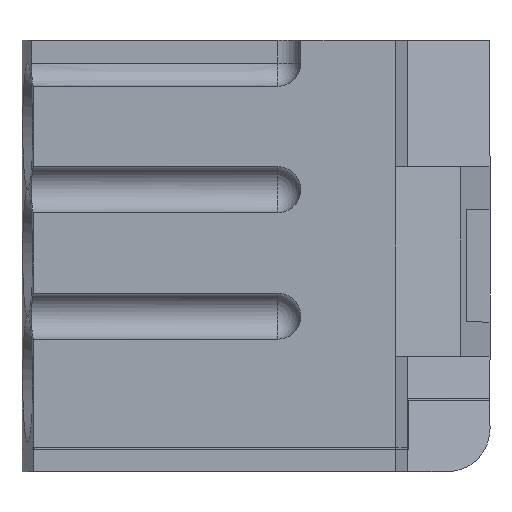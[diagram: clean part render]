
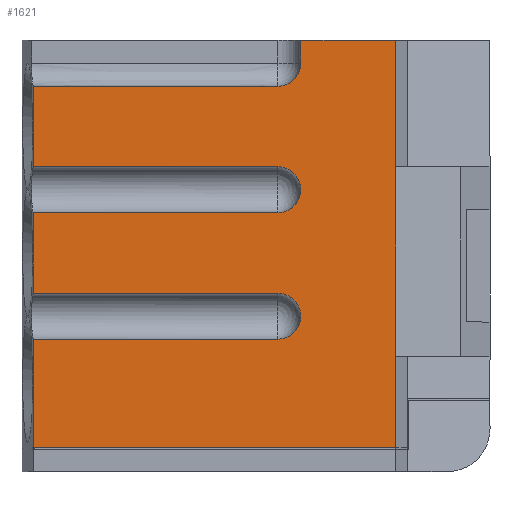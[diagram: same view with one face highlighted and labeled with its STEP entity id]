
A CAD part, top view. The second image highlights one B-rep face of the part: STEP entity #1621.
In plain terms, the highlighted planar face has unit normal (0, 0, 1).
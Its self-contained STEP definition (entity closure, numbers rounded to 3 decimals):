
#23=B_SPLINE_CURVE_WITH_KNOTS('',3,(#2392,#2393,#2394,#2395),
 .UNSPECIFIED.,.F.,.F.,(4,4),(0.,0.009),.UNSPECIFIED.);
#64=PLANE('',#1735);
#73=CIRCLE('',#1634,0.8);
#86=CIRCLE('',#1709,0.8);
#90=CIRCLE('',#1714,0.8);
#384=ORIENTED_EDGE('',*,*,#421,.F.);
#385=ORIENTED_EDGE('',*,*,#425,.F.);
#386=ORIENTED_EDGE('',*,*,#423,.F.);
#387=ORIENTED_EDGE('',*,*,#570,.T.);
#388=ORIENTED_EDGE('',*,*,#567,.F.);
#389=ORIENTED_EDGE('',*,*,#538,.T.);
#390=ORIENTED_EDGE('',*,*,#569,.F.);
#391=ORIENTED_EDGE('',*,*,#571,.T.);
#392=ORIENTED_EDGE('',*,*,#550,.F.);
#393=ORIENTED_EDGE('',*,*,#549,.T.);
#394=ORIENTED_EDGE('',*,*,#548,.T.);
#395=ORIENTED_EDGE('',*,*,#547,.T.);
#396=ORIENTED_EDGE('',*,*,#562,.F.);
#397=ORIENTED_EDGE('',*,*,#545,.F.);
#398=ORIENTED_EDGE('',*,*,#542,.T.);
#399=ORIENTED_EDGE('',*,*,#566,.F.);
#400=ORIENTED_EDGE('',*,*,#572,.T.);
#421=EDGE_CURVE('',#575,#576,#668,.T.);
#423=EDGE_CURVE('',#577,#578,#669,.F.);
#425=EDGE_CURVE('',#578,#575,#73,.F.);
#538=EDGE_CURVE('',#650,#651,#86,.T.);
#542=EDGE_CURVE('',#652,#654,#90,.T.);
#545=EDGE_CURVE('',#652,#656,#758,.T.);
#547=EDGE_CURVE('',#629,#657,#760,.T.);
#548=EDGE_CURVE('',#630,#629,#761,.T.);
#549=EDGE_CURVE('',#635,#630,#762,.T.);
#550=EDGE_CURVE('',#635,#658,#763,.F.);
#562=EDGE_CURVE('',#656,#657,#770,.T.);
#566=EDGE_CURVE('',#665,#654,#23,.T.);
#567=EDGE_CURVE('',#650,#666,#772,.T.);
#569=EDGE_CURVE('',#667,#651,#773,.F.);
#570=EDGE_CURVE('',#577,#666,#774,.T.);
#571=EDGE_CURVE('',#667,#658,#775,.T.);
#572=EDGE_CURVE('',#665,#576,#776,.T.);
#575=VERTEX_POINT('',#2075);
#576=VERTEX_POINT('',#2076);
#577=VERTEX_POINT('',#2078);
#578=VERTEX_POINT('',#2080);
#629=VERTEX_POINT('',#2238);
#630=VERTEX_POINT('',#2242);
#635=VERTEX_POINT('',#2261);
#650=VERTEX_POINT('',#2317);
#651=VERTEX_POINT('',#2318);
#652=VERTEX_POINT('',#2322);
#654=VERTEX_POINT('',#2325);
#656=VERTEX_POINT('',#2330);
#657=VERTEX_POINT('',#2335);
#658=VERTEX_POINT('',#2343);
#665=VERTEX_POINT('',#2391);
#666=VERTEX_POINT('',#2398);
#667=VERTEX_POINT('',#2400);
#668=LINE('',#2074,#778);
#669=LINE('',#2079,#779);
#758=LINE('',#2332,#868);
#760=LINE('',#2336,#870);
#761=LINE('',#2338,#871);
#762=LINE('',#2340,#872);
#763=LINE('',#2342,#873);
#770=LINE('',#2366,#880);
#772=LINE('',#2397,#882);
#773=LINE('',#2401,#883);
#774=LINE('',#2403,#884);
#775=LINE('',#2404,#885);
#776=LINE('',#2405,#886);
#778=VECTOR('',#1744,1000.);
#779=VECTOR('',#1747,1000.);
#868=VECTOR('',#2006,1000.);
#870=VECTOR('',#2010,1000.);
#871=VECTOR('',#2013,1000.);
#872=VECTOR('',#2016,1000.);
#873=VECTOR('',#2019,1000.);
#880=VECTOR('',#2048,1000.);
#882=VECTOR('',#2054,1000.);
#883=VECTOR('',#2057,1000.);
#884=VECTOR('',#2060,1000.);
#885=VECTOR('',#2061,1000.);
#886=VECTOR('',#2062,1000.);
#959=EDGE_LOOP('',(#384,#385,#386,#387,#388,#389,#390,#391,#392,#393,#394,
#395,#396,#397,#398,#399,#400));
#1036=FACE_BOUND('',#959,.T.);
#1621=ADVANCED_FACE('',(#1036),#64,.F.);
#1634=AXIS2_PLACEMENT_3D('',#2083,#1752,#1753);
#1709=AXIS2_PLACEMENT_3D('',#2316,#1989,#1990);
#1714=AXIS2_PLACEMENT_3D('',#2326,#1999,#2000);
#1735=AXIS2_PLACEMENT_3D('',#2402,#2058,#2059);
#1744=DIRECTION('',(-1.,0.,0.));
#1747=DIRECTION('',(-1.,0.,0.));
#1752=DIRECTION('',(0.,0.,-1.));
#1753=DIRECTION('',(-1.,0.,0.));
#1989=DIRECTION('',(0.,0.,-1.));
#1990=DIRECTION('',(-1.,0.,0.));
#1999=DIRECTION('',(0.,0.,-1.));
#2000=DIRECTION('',(-1.,0.,0.));
#2006=DIRECTION('',(0.,1.,0.));
#2010=DIRECTION('',(0.,1.,0.));
#2013=DIRECTION('',(0.,1.,0.));
#2016=DIRECTION('',(0.,1.,0.));
#2019=DIRECTION('',(1.,0.,0.));
#2048=DIRECTION('',(1.,0.,0.));
#2054=DIRECTION('',(-1.,0.,0.));
#2057=DIRECTION('',(-1.,0.,0.));
#2058=DIRECTION('',(0.,0.,-1.));
#2059=DIRECTION('',(-1.,0.,0.));
#2060=DIRECTION('',(0.,-1.,0.));
#2061=DIRECTION('',(0.,-1.,0.));
#2062=DIRECTION('',(0.,-1.,0.));
#2074=CARTESIAN_POINT('',(0.8,10.6,3.75));
#2075=CARTESIAN_POINT('',(0.8,10.6,3.75));
#2076=CARTESIAN_POINT('',(-7.7,10.6,3.75));
#2078=CARTESIAN_POINT('',(-7.7,9.,3.75));
#2079=CARTESIAN_POINT('',(0.8,9.,3.75));
#2080=CARTESIAN_POINT('',(0.8,9.,3.75));
#2083=CARTESIAN_POINT('',(0.8,9.8,3.75));
#2238=CARTESIAN_POINT('',(4.9,10.6,3.75));
#2242=CARTESIAN_POINT('',(4.9,4.,3.75));
#2261=CARTESIAN_POINT('',(4.9,0.825,3.75));
#2316=CARTESIAN_POINT('',(0.8,5.4,3.75));
#2317=CARTESIAN_POINT('',(0.8,6.2,3.75));
#2318=CARTESIAN_POINT('',(0.8,4.6,3.75));
#2322=CARTESIAN_POINT('',(1.6,14.2,3.75));
#2325=CARTESIAN_POINT('',(0.8,13.4,3.75));
#2326=CARTESIAN_POINT('',(0.8,14.2,3.75));
#2330=CARTESIAN_POINT('',(1.6,15.,3.75));
#2332=CARTESIAN_POINT('',(1.6,10.6,3.75));
#2335=CARTESIAN_POINT('',(4.9,15.,3.75));
#2336=CARTESIAN_POINT('',(4.9,10.6,3.75));
#2338=CARTESIAN_POINT('',(4.9,10.6,3.75));
#2340=CARTESIAN_POINT('',(4.9,10.6,3.75));
#2342=CARTESIAN_POINT('',(-7.7,0.825,3.75));
#2343=CARTESIAN_POINT('',(-7.7,0.825,3.75));
#2366=CARTESIAN_POINT('',(-8.1,15.,3.75));
#2391=CARTESIAN_POINT('',(-7.7,13.4,3.75));
#2392=CARTESIAN_POINT('',(-7.7,13.4,3.75));
#2393=CARTESIAN_POINT('',(-4.867,13.4,3.75));
#2394=CARTESIAN_POINT('',(-2.033,13.4,3.75));
#2395=CARTESIAN_POINT('',(0.8,13.4,3.75));
#2397=CARTESIAN_POINT('',(0.8,6.2,3.75));
#2398=CARTESIAN_POINT('',(-7.7,6.2,3.75));
#2400=CARTESIAN_POINT('',(-7.7,4.6,3.75));
#2401=CARTESIAN_POINT('',(0.8,4.6,3.75));
#2402=CARTESIAN_POINT('',(-8.1,10.6,3.75));
#2403=CARTESIAN_POINT('',(-7.7,13.398,3.75));
#2404=CARTESIAN_POINT('',(-7.7,13.398,3.75));
#2405=CARTESIAN_POINT('',(-7.7,13.398,3.75));
